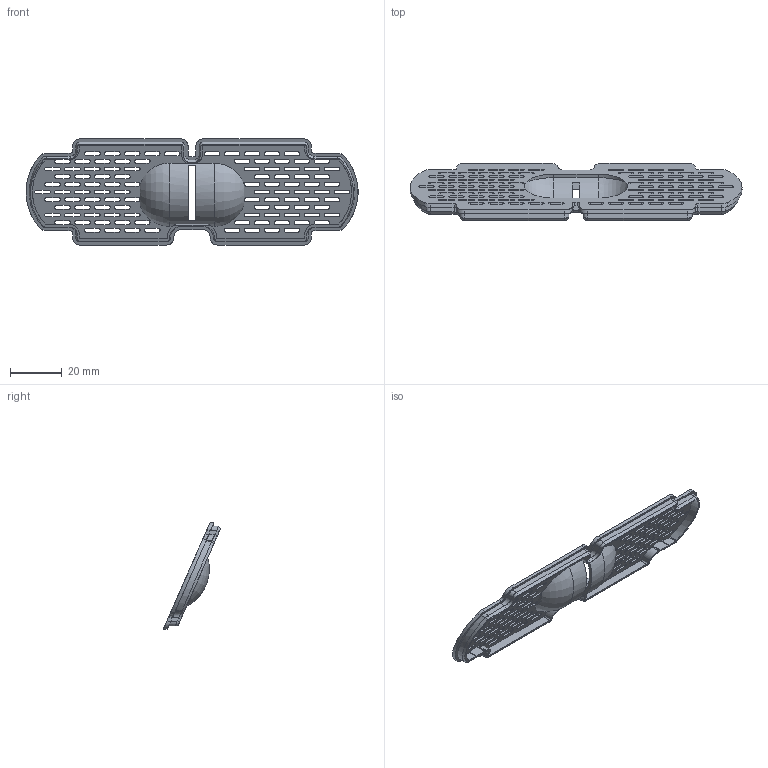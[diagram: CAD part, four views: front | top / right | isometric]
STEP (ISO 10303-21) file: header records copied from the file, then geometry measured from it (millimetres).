
FILE_DESCRIPTION (( 'STEP AP203' ), '1' );
FILE_NAME ('Deckel.STEP', '2023-02-08T22:23:47', ( '' ), ( '' ), 'SwSTEP 2.0', 'SolidWorks 2017', '' );
FILE_SCHEMA (( 'CONFIG_CONTROL_DESIGN' ));
Length unit declared in the file: millimetre
Products named in the file (1): Deckel
Bounding box: 127.95 x 22.06 x 41 mm (x, y, z)
Volume: 6996 mm3; surface area: 13245.2 mm2
Topology: 1 solids, 1 shells, 599 faces, 1759 edges, 1160 vertices
Faces by surface type: plane 293, cylinder 280, bspline 22, torus 4
Entity records: 22202 total; most frequent: CARTESIAN_POINT 7657, ORIENTED_EDGE 3518, DIRECTION 2295, EDGE_CURVE 1759, VERTEX_POINT 1160, LINE 1103, VECTOR 1103, EDGE_LOOP 807
